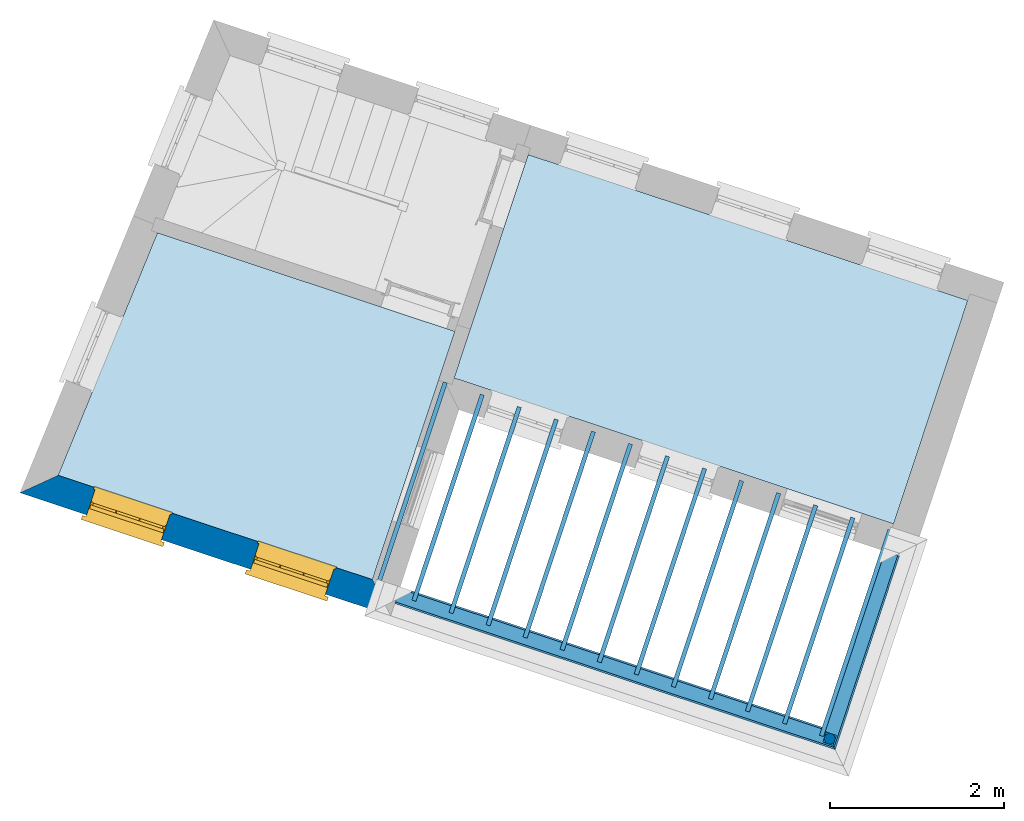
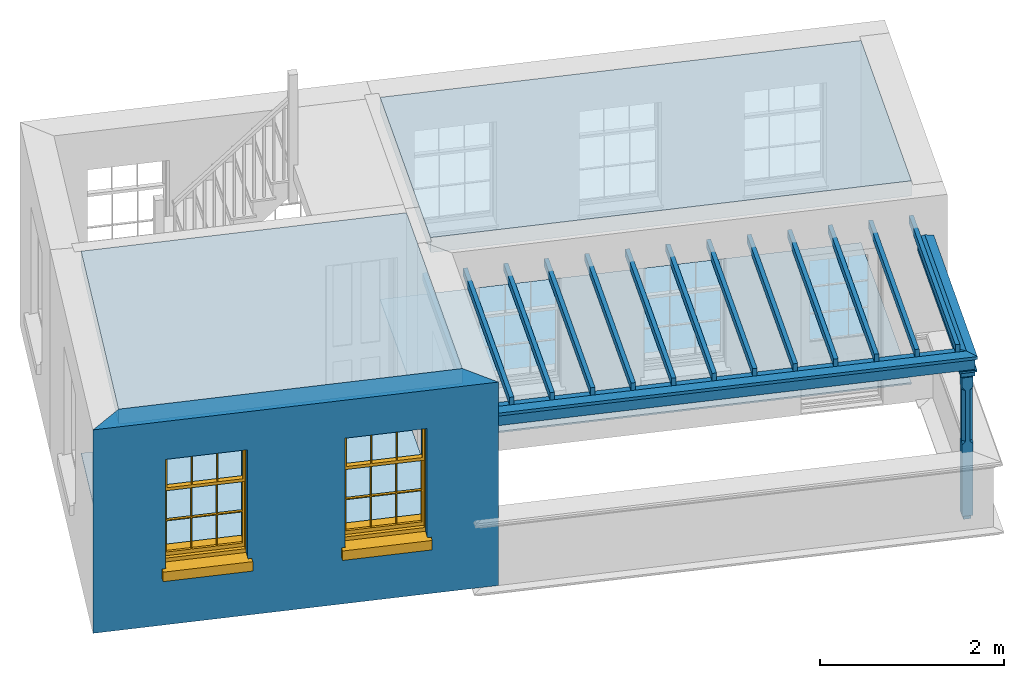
# One storey, part 1 of 6: 17 beams, 4 slabs, 2 windows, 1 column, 1 wall, 2 openings.
"""IFC4 building model written with IfcOpenShell, lengths in metres."""

from ifc_helpers import new_model, si_unit, frame, origin, origin_with_axes, place, context, subcontext, project, spatial, polyline, outline, extrude, clip, halfspace, faceted_brep, source, transform, mapped, material, layer, layer_set, layer_usage, material_profile, profile_set, profile_usage, type_object, type_shapes, element, fill, save


model = new_model("IFC4")

# Units and contexts
model_context = context("Model", 3, world=origin_with_axes())
body_context = subcontext(model_context, "Body", "Model", "MODEL_VIEW")
ifc_project = project(units=[si_unit("PLANEANGLEUNIT", "RADIAN"), si_unit("MASSUNIT", "GRAM", prefix="KILO"), si_unit("FORCEUNIT", "NEWTON", prefix="KILO"), si_unit("LENGTHUNIT", "METRE"), si_unit("AREAUNIT", "SQUARE_METRE"), si_unit("VOLUMEUNIT", "CUBIC_METRE")], contexts=[model_context, model_context])

# Sites, building, storey
site_1_placement = place(None, origin_with_axes())
site_1 = spatial("IfcSite", under=ifc_project, at=site_1_placement, Name="Tamar")
site_2_placement = place(site_1_placement, origin_with_axes())
site_2 = spatial("IfcSite", under=site_1, at=site_2_placement, Name="Site plot-16", CompositionType="ELEMENT")
building_placement = place(None, origin_with_axes())
building = spatial("IfcBuilding", under=site_2, at=building_placement, Name="Building plot-16", CompositionType="ELEMENT")
storey_placement = place(None, frame((0.0, 0.0, 29.45), z_axis=(0.0, 0.0, 1.0), x_axis=(1.0, 0.0, 0.0)))
storey = spatial("IfcBuildingStorey", under=building, at=storey_placement, Name="plot-16 1", CompositionType="ELEMENT", Elevation=29.45)

# Column
column_type = type_object("IfcColumnType", Name="pergola post", PredefinedType="NOTDEFINED")
shared_shape_1 = source(origin(), body_context, "Body", "Brep", [
    faceted_brep([(0.0246, -0.0615, 1.72), (0.0615, -0.0246, 1.72), (0.0615, -0.0615, 1.766667), (0.0615, -0.0246, 1.044444), (0.0246, -0.0615, 1.044444), (0.0615, 0.0246, 1.72), (0.0615, 0.0615, 1.766667), (-0.0246, -0.0615, 1.72), (-0.0615, -0.0615, 1.766667), (-0.0246, -0.0615, 1.044444), (0.0615, -0.0615, 0.997778), (0.0615, 0.0246, 1.044444), (0.0246, 0.0615, 1.72), (0.0615, 0.0615, 1.891111), (0.0615, -0.0615, 1.891111), (-0.0615, -0.0615, 1.891111), (-0.0615, -0.0246, 1.72), (-0.0615, -0.0246, 1.044444), (-0.0615, -0.0615, 0.997778), (0.0615, 0.0615, 0.997778), (0.0246, 0.0615, 1.044444), (-0.0246, 0.0615, 1.72), (-0.0615, 0.0615, 1.766667), (0.04305, 0.04305, 1.891111), (0.04305, -0.04305, 1.891111), (-0.0615, 0.0615, 1.891111), (-0.04305, -0.04305, 1.891111), (-0.0615, 0.0246, 1.72), (-0.0615, 0.0246, 1.044444), (0.0615, -0.0615, 0.053333), (-0.0615, -0.0615, 0.053333), (0.0615, 0.0615, 0.053333), (-0.0246, 0.0615, 1.044444), (-0.04305, 0.04305, 1.891111), (0.04305, 0.04305, 1.914444), (0.04305, -0.04305, 1.914444), (-0.04305, -0.04305, 1.914444), (-0.0615, 0.0615, 0.997778), (-0.0615, 0.0615, 0.053333), (-0.04305, -0.04305, 0.053333), (0.04305, -0.04305, 0.053333), (0.04305, 0.04305, 0.053333), (-0.04305, 0.04305, 1.914444), (0.07995, 0.07995, 1.914444), (0.07995, -0.07995, 1.914444), (-0.07995, -0.07995, 1.914444), (-0.04305, 0.04305, 0.053333), (-0.04305, -0.04305, 0.0), (0.04305, -0.04305, 0.0), (0.04305, 0.04305, 0.0), (-0.07995, 0.07995, 1.914444), (0.07995, 0.07995, 1.976667), (0.07995, -0.07995, 1.976667), (-0.07995, -0.07995, 1.976667), (-0.04305, 0.04305, 0.0), (-0.07995, 0.07995, 1.976667), (0.0984, 0.0984, 1.976667), (0.0984, -0.0984, 1.976667), (-0.0984, -0.0984, 1.976667), (-0.0984, 0.0984, 1.976667), (0.0984, 0.0984, 2.0), (0.0984, -0.0984, 2.0), (-0.0984, -0.0984, 2.0), (-0.0984, 0.0984, 2.0)], [[[0, 1, 2]], [[3, 1, 0, 4]], [[1, 5, 6, 2]], [[7, 0, 2, 8]], [[4, 0, 7, 9]], [[3, 4, 10]], [[1, 3, 11, 5]], [[5, 12, 6]], [[13, 14, 2, 6]], [[15, 8, 2, 14]], [[8, 16, 7]], [[9, 7, 16, 17]], [[9, 18, 10, 4]], [[3, 10, 19, 11]], [[20, 12, 5, 11]], [[21, 22, 6, 12]], [[14, 13, 23, 24]], [[13, 6, 22, 25]], [[25, 22, 8, 15]], [[26, 15, 14, 24]], [[16, 8, 22, 27]], [[27, 28, 17, 16]], [[17, 18, 9]], [[29, 10, 18, 30]], [[31, 19, 10, 29]], [[20, 11, 19]], [[12, 20, 32, 21]], [[21, 27, 22]], [[33, 23, 13, 25]], [[23, 34, 35, 24]], [[26, 33, 25, 15]], [[36, 26, 24, 35]], [[28, 27, 21, 32]], [[17, 28, 37, 18]], [[38, 30, 18, 37]], [[29, 30, 39, 40]], [[31, 38, 37, 19]], [[40, 41, 31, 29]], [[32, 20, 19, 37]], [[33, 42, 34, 23]], [[43, 44, 35, 34]], [[42, 33, 26, 36]], [[36, 35, 44, 45]], [[28, 32, 37]], [[46, 39, 30, 38]], [[39, 47, 48, 40]], [[46, 38, 31, 41]], [[49, 41, 40, 48]], [[43, 34, 42, 50]], [[43, 51, 52, 44]], [[45, 50, 42, 36]], [[53, 45, 44, 52]], [[46, 54, 47, 39]], [[54, 46, 41, 49]], [[50, 55, 51, 43]], [[56, 57, 52, 51]], [[55, 50, 45, 53]], [[53, 52, 57, 58]], [[56, 51, 55, 59]], [[56, 60, 61, 57]], [[58, 59, 55, 53]], [[62, 58, 57, 61]], [[59, 63, 60, 56]], [[63, 62, 61, 60]], [[58, 62, 63, 59]], [[47, 54, 49, 48]]]),
])
type_shapes(column_type, [shared_shape_1])
column_placement = place(storey_placement, frame((261.536710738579, 291.722224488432, 0.0), z_axis=(0.0, 0.0, 1.0), x_axis=(0.31503869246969, 0.949078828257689, 0.0)))
element("IfcColumn", 1, at=column_placement, inside=storey, type_object=column_type, Name="pergola post", context=body_context, shape_type="MappedRepresentation", body=[
    mapped(shared_shape_1, transform((0.0, 0.0, 0.0), scale=1.0)),
])

# Beams
ifc_material_profile_1 = material_profile(None, outline(polyline([(-0.08, -0.7), (0.08, -0.7), (0.08, -0.56), (-0.08, -0.56), (-0.08, -0.7)])))
ifc_profile_set_1 = profile_set([ifc_material_profile_1])
ifc_profile_usage_1 = profile_usage(ifc_profile_set_1)
beam_type_1 = type_object("IfcBeamType", Name="pergola beam_0", PredefinedType="NOTDEFINED", material=ifc_profile_set_1)
beam_1_placement = place(storey_placement, frame((262.485789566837, 291.407185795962, 2.7), z_axis=(-0.949078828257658, 0.315038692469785, 0.0), x_axis=(-0.315038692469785, -0.949078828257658, 0.0)))
element("IfcBeam", 2, at=beam_1_placement, inside=storey, type_object=beam_type_1, material=ifc_profile_usage_1, Name="pergola beam_0", context=body_context, shape_type="Clipping", body=[
    clip(clip(extrude(outline(polyline([(-0.08, -0.7), (0.08, -0.7), (0.08, -0.56), (-0.08, -0.56), (-0.08, -0.7)])), origin_with_axes(), (0.0, 0.0, 1.0), 7.24899441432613), halfspace(frame((0.0, 0.0, 6.24899441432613), z_axis=(-6.12323399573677e-17, 0.0, -1.0), x_axis=(0.0, 1.0, 0.0)), True)), halfspace(frame((0.0, 0.0, 1.0), z_axis=(-0.707106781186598, 0.0, -0.707106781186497), x_axis=(0.0, 1.0, 0.0)), False)),
])
ifc_profile_usage_2 = profile_usage(ifc_profile_set_1)
beam_2_placement = place(storey_placement, frame((262.561111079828, 294.808311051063, 2.7), z_axis=(-0.315038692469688, -0.94907882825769, 0.0), x_axis=(0.94907882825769, -0.315038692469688, 0.0)))
element("IfcBeam", 3, at=beam_2_placement, inside=storey, type_object=beam_type_1, material=ifc_profile_usage_2, Name="pergola beam_0", context=body_context, shape_type="Clipping", body=[
    clip(clip(extrude(outline(polyline([(-0.08, -0.7), (0.08, -0.7), (0.08, -0.56), (-0.08, -0.56), (-0.08, -0.7)])), origin_with_axes(), (0.0, 0.0, 1.0), 4.25166516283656), halfspace(frame((0.0, 0.0, 3.25166516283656), z_axis=(0.707106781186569, 0.0, -0.707106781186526), x_axis=(0.0, 1.0, 0.0)), True)), halfspace(frame((0.0, 0.0, 1.0), z_axis=(-2.33759158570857e-14, 0.0, -1.0), x_axis=(0.0, 1.0, 0.0)), False)),
])
ifc_material_profile_2 = material_profile(None, outline(polyline([(0.0, -0.5), (-0.1, -0.52), (-0.1, -0.56), (0.1, -0.56), (0.1, -0.52), (0.0, -0.5)])))
ifc_profile_set_2 = profile_set([ifc_material_profile_2])
ifc_profile_usage_3 = profile_usage(ifc_profile_set_2)
beam_type_2 = type_object("IfcBeamType", Name="pergola beam_1", PredefinedType="NOTDEFINED", material=ifc_profile_set_2)
beam_3_placement = place(storey_placement, frame((262.485789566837, 291.407185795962, 2.7), z_axis=(-0.949078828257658, 0.315038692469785, 0.0), x_axis=(-0.315038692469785, -0.949078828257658, 0.0)))
element("IfcBeam", 4, at=beam_3_placement, inside=storey, type_object=beam_type_2, material=ifc_profile_usage_3, Name="pergola beam_1", context=body_context, shape_type="Clipping", body=[
    clip(clip(extrude(outline(polyline([(0.0, -0.5), (-0.1, -0.52), (-0.1, -0.56), (0.1, -0.56), (0.1, -0.52), (0.0, -0.5)])), origin_with_axes(), (0.0, 0.0, 1.0), 7.24899441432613), halfspace(frame((0.0, 0.0, 6.24899441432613), z_axis=(-6.12323399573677e-17, 0.0, -1.0), x_axis=(0.0, 1.0, 0.0)), True)), halfspace(frame((0.0, 0.0, 1.0), z_axis=(-0.707106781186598, 0.0, -0.707106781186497), x_axis=(0.0, 1.0, 0.0)), False)),
])
ifc_profile_usage_4 = profile_usage(ifc_profile_set_2)
beam_4_placement = place(storey_placement, frame((262.561111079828, 294.808311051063, 2.7), z_axis=(-0.315038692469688, -0.94907882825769, 0.0), x_axis=(0.94907882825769, -0.315038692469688, 0.0)))
element("IfcBeam", 5, at=beam_4_placement, inside=storey, type_object=beam_type_2, material=ifc_profile_usage_4, Name="pergola beam_1", context=body_context, shape_type="Clipping", body=[
    clip(clip(extrude(outline(polyline([(0.0, -0.5), (-0.1, -0.52), (-0.1, -0.56), (0.1, -0.56), (0.1, -0.52), (0.0, -0.5)])), origin_with_axes(), (0.0, 0.0, 1.0), 4.25166516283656), halfspace(frame((0.0, 0.0, 3.25166516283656), z_axis=(0.707106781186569, 0.0, -0.707106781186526), x_axis=(0.0, 1.0, 0.0)), True)), halfspace(frame((0.0, 0.0, 1.0), z_axis=(-2.33759158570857e-14, 0.0, -1.0), x_axis=(0.0, 1.0, 0.0)), False)),
])
beam_5_placement = place(storey_placement, frame((256.294004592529, 293.462496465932, 2.2)))
element("IfcBeam", 6, at=beam_5_placement, inside=storey, Name="My Beam", ObjectType="Beam", context=body_context, shape_type="SweptSolid", body=[
    extrude(outline(polyline([(0.0, 0.0), (0.0474539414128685, -0.0157519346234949), (0.835575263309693, 2.35852550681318), (0.788121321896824, 2.37427744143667), (0.0, 0.0)])), origin_with_axes(), (0.0, 0.0, 1.0), 0.1),
])
beam_6_placement = place(storey_placement, frame((256.721090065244, 293.32072905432, 2.2)))
element("IfcBeam", 7, at=beam_6_placement, inside=storey, Name="My Beam", ObjectType="Beam", context=body_context, shape_type="SweptSolid", body=[
    extrude(outline(polyline([(0.0, 0.0), (0.0474539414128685, -0.0157519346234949), (0.83557526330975, 2.35852550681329), (0.788121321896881, 2.37427744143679), (0.0, 0.0)])), origin_with_axes(), (0.0, 0.0, 1.0), 0.1),
])
beam_7_placement = place(storey_placement, frame((257.14817553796, 293.178961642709, 2.2)))
element("IfcBeam", 8, at=beam_7_placement, inside=storey, Name="My Beam", ObjectType="Beam", context=body_context, shape_type="SweptSolid", body=[
    extrude(outline(polyline([(0.0, 0.0), (0.0474539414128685, -0.0157519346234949), (0.83557526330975, 2.35852550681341), (0.788121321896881, 2.3742774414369), (0.0, 0.0)])), origin_with_axes(), (0.0, 0.0, 1.0), 0.1),
])
beam_8_placement = place(storey_placement, frame((257.575261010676, 293.037194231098, 2.2)))
element("IfcBeam", 9, at=beam_8_placement, inside=storey, Name="My Beam", ObjectType="Beam", context=body_context, shape_type="SweptSolid", body=[
    extrude(outline(polyline([(0.0, 0.0), (0.0474539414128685, -0.0157519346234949), (0.835575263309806, 2.35852550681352), (0.788121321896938, 2.37427744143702), (0.0, 0.0)])), origin_with_axes(), (0.0, 0.0, 1.0), 0.1),
])
for number, where, name in (
    (10, (258.002346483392, 292.895426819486, 2.2), "My Beam"),
    (11, (258.429431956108, 292.753659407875, 2.2), "My Beam"),
):
    element("IfcBeam", number, at=place(storey_placement, frame(where)), inside=storey, Name=name, ObjectType="Beam", context=body_context, shape_type="SweptSolid", body=[
        extrude(outline(polyline([(0.0, 0.0), (0.0474539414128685, -0.0157519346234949), (0.835575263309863, 2.35852550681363), (0.788121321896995, 2.37427744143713), (0.0, 0.0)])), origin_with_axes(), (0.0, 0.0, 1.0), 0.1),
    ])
for number, where, name in (
    (12, (258.856517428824, 292.611891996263, 2.2), "My Beam"),
    (13, (259.28360290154, 292.470124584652, 2.2), "My Beam"),
    (14, (259.710688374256, 292.328357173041, 2.2), "My Beam"),
):
    element("IfcBeam", number, at=place(storey_placement, frame(where)), inside=storey, Name=name, ObjectType="Beam", context=body_context, shape_type="SweptSolid", body=[
        extrude(outline(polyline([(0.0, 0.0), (0.0474539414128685, -0.0157519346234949), (0.83557526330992, 2.35852550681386), (0.788121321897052, 2.37427744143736), (0.0, 0.0)])), origin_with_axes(), (0.0, 0.0, 1.0), 0.1),
    ])
beam_9_placement = place(storey_placement, frame((260.137773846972, 292.186589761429, 2.2)))
element("IfcBeam", 15, at=beam_9_placement, inside=storey, Name="My Beam", ObjectType="Beam", context=body_context, shape_type="SweptSolid", body=[
    extrude(outline(polyline([(0.0, 0.0), (0.0474539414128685, -0.0157519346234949), (0.835575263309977, 2.35852550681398), (0.788121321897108, 2.37427744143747), (0.0, 0.0)])), origin_with_axes(), (0.0, 0.0, 1.0), 0.1),
])
for number, where, name in (
    (16, (260.564859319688, 292.044822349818, 2.2), "My Beam"),
    (17, (260.991944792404, 291.903054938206, 2.2), "My Beam"),
):
    element("IfcBeam", number, at=place(storey_placement, frame(where)), inside=storey, Name=name, ObjectType="Beam", context=body_context, shape_type="SweptSolid", body=[
        extrude(outline(polyline([(0.0, 0.0), (0.0474539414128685, -0.0157519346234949), (0.835575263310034, 2.3585255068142), (0.788121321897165, 2.3742774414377), (0.0, 0.0)])), origin_with_axes(), (0.0, 0.0, 1.0), 0.1),
    ])
beam_10_placement = place(storey_placement, frame((261.41903026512, 291.761287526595, 2.2)))
element("IfcBeam", 18, at=beam_10_placement, inside=storey, Name="My Beam", ObjectType="Beam", context=body_context, shape_type="SweptSolid", body=[
    extrude(outline(polyline([(0.0, 0.0), (0.0474539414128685, -0.0157519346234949), (0.835575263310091, 2.35852550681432), (0.788121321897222, 2.37427744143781), (0.0, 0.0)])), origin_with_axes(), (0.0, 0.0, 1.0), 0.1),
])

# Slabs
slab_1_placement = place(storey_placement, frame((253.788780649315, 297.55457636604, 2.5)))
element("IfcSlab", 19, at=slab_1_placement, inside=storey, Name="My Slab", ObjectType="Slab", PredefinedType="FLOOR", context=body_context, shape_type="SweptSolid", body=[
    extrude(outline(polyline([(0.0, 0.0), (-1.14506928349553, -2.79610366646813), (2.47822770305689, -3.99882646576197), (3.42790047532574, -1.13786257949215), (0.0, 0.0)])), origin_with_axes(), (0.0, 0.0, 1.0), 0.2),
])
slab_2_placement = place(storey_placement, frame((253.788780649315, 297.55457636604, 0.0)))
element("IfcSlab", 20, at=slab_2_placement, inside=storey, Name="My Slab", ObjectType="Slab", PredefinedType="FLOOR", context=body_context, shape_type="SweptSolid", body=[
    extrude(outline(polyline([(0.0, 0.0), (-1.14506928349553, -2.79610366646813), (2.47822770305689, -3.99882646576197), (3.42790047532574, -1.13786257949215), (0.0, 0.0)])), origin_with_axes(), (0.0, 0.0, 1.0), 0.02),
])
slab_3_placement = place(storey_placement, frame((262.274108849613, 294.197631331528, 2.5)))
element("IfcSlab", 21, at=slab_3_placement, inside=storey, Name="My Slab", ObjectType="Slab", PredefinedType="FLOOR", context=body_context, shape_type="SweptSolid", body=[
    extrude(outline(polyline([(0.0, 0.0), (0.854836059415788, 2.57526083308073), (-4.21229050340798, 4.25725065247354), (-5.06712656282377, 1.68198981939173), (0.0, 0.0)])), origin_with_axes(), (0.0, 0.0, 1.0), 0.2),
])
slab_4_placement = place(storey_placement, frame((262.274108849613, 294.197631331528, 0.0)))
element("IfcSlab", 22, at=slab_4_placement, inside=storey, Name="My Slab", ObjectType="Slab", PredefinedType="FLOOR", context=body_context, shape_type="SweptSolid", body=[
    extrude(outline(polyline([(0.0, 0.0), (0.854836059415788, 2.57526083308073), (-4.21229050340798, 4.25725065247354), (-5.06712656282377, 1.68198981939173), (0.0, 0.0)])), origin_with_axes(), (0.0, 0.0, 1.0), 0.02),
])

# Wall, openings, windows
ifc_material = material(Name="Masonry")
ifc_layer = layer(ifc_material, 0.33, ventilated=False)
ifc_layer_set = layer_set([ifc_layer], Name="exterior_0.08_0.25")
ifc_layer_usage = layer_usage(ifc_layer_set, "AXIS2", "POSITIVE", -0.25)
wall_type = type_object("IfcWallType", Name="exterior_0.08_0.25", PredefinedType="SOLIDWALL", material=ifc_layer_set)
wall_placement = place(storey_placement, frame((252.537219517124, 294.709529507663, 0.0), z_axis=(0.0, 0.0, 1.0), x_axis=(0.949078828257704, -0.315038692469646, 0.0)))
wall = element("IfcWall", 23, at=wall_placement, inside=storey, type_object=wall_type, material=ifc_layer_usage, Name="exterior", context=body_context, shape_type="SweptSolid", body=[
    extrude(outline(polyline([(0.0856501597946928, 0.0799999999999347), (-0.267656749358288, -0.249999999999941), (4.23334883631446, -0.249999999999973), (3.90334883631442, 0.0800000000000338), (0.0856501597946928, 0.0799999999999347)])), origin_with_axes(), (0.0, 0.0, 1.0), 2.7),
])
opening_1_placement = place(wall_placement, frame((0.540837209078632, 0.0, 0.75)))
opening_1 = element("IfcOpeningElement", 24, at=opening_1_placement, cuts=wall, Name="My Opening", ObjectType="Opening", context=body_context, shape_type="SweptSolid", body=[
    extrude(outline(polyline([(0.0, -0.269999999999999), (0.909999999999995, -0.269999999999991), (0.909999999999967, 1.10000000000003), (-2.8421709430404e-14, 1.10000000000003), (0.0, -0.269999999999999)])), origin_with_axes(), (0.0, 0.0, 1.0), 1.445),
])
opening_2_placement = place(wall_placement, frame((2.53251162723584, 0.0, 0.75)))
opening_2 = element("IfcOpeningElement", 25, at=opening_2_placement, cuts=wall, Name="My Opening", ObjectType="Opening", context=body_context, shape_type="SweptSolid", body=[
    extrude(outline(polyline([(0.0, -0.270000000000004), (0.909999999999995, -0.269999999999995), (0.909999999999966, 1.10000000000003), (-2.8421709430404e-14, 1.10000000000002), (0.0, -0.270000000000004)])), origin_with_axes(), (0.0, 0.0, 1.0), 1.445),
])
window_type = type_object("IfcWindowType", Name="sash_shorter", PartitioningType="DOUBLE_PANEL_HORIZONTAL", PredefinedType="NOTDEFINED")
shared_shape_2 = source(origin(), body_context, "Body", "Brep", [
    faceted_brep([(0.876875, 0.145, 0.999097), (0.876875, 0.145, 1.411875), (0.9, 0.145, 1.435), (0.033125, 0.145, 1.411875), (0.033125, 0.145, 0.999097), (0.01, 0.145, 1.435), (0.033125, 0.115, 1.411875), (0.01, 0.115, 1.435), (0.033125, 0.115, 0.999097), (0.876875, 0.115, 1.411875), (0.876875, 0.115, 0.999097), (0.9, 0.115, 1.435), (0.033125, 0.145, 0.960972), (0.01, 0.145, 0.960972), (0.033125, 0.145, 0.548195), (0.876875, 0.145, 0.960972), (0.876875, 0.145, 0.548195), (0.9, 0.145, 0.960972), (0.876875, 0.145, 0.538195), (0.876875, 0.145, 0.125417), (0.9, 0.145, 0.077167), (0.033125, 0.145, 0.125417), (0.033125, 0.145, 0.538195), (0.01, 0.145, 0.077167), (0.9, 0.115, 0.960972), (0.01, 0.115, 0.960972), (-0.0425, 0.0, 0.01), (-0.0425, -0.05, 0.001667), (0.0, 0.0, 0.01), (0.9525, 0.0, 0.01), (0.91, 0.0, 0.01), (0.9525, -0.05, 0.001667), (-0.02, 0.33, 0.077167), (0.0, 0.33, 0.077167), (-0.02, 0.36, 0.077167), (0.0, 0.19, 0.077167), (0.01, 0.19, 0.077167), (0.91, 0.19, 0.077167), (0.91, 0.33, 0.077167), (0.9, 0.19, 0.077167), (0.93, 0.33, 0.077167), (0.93, 0.36, 0.077167), (0.01, 0.145, 0.999097), (0.01, 0.175, 0.999097), (0.9, 0.145, 0.999097), (0.9, 0.175, 0.999097), (0.876875, 0.175, 0.125417), (0.876875, 0.175, 0.538195), (0.9, 0.175, 0.077167), (0.876875, 0.175, 0.548195), (0.876875, 0.175, 0.960972), (0.033125, 0.175, 0.125417), (0.01, 0.175, 0.077167), (0.033125, 0.175, 0.538195), (0.033125, 0.175, 0.960972), (0.033125, 0.175, 0.548195), (-0.02, 0.33, 0.052167), (-0.02, 0.36, 0.052167), (0.93, 0.36, 0.052167), (0.93, 0.33, 0.052167), (0.91, 0.33, 0.052167), (0.0, 0.33, 0.052167), (0.91, 0.1, 0.026667), (0.0, 0.1, 0.026667), (-0.0425, -0.05, -0.123333), (0.9525, -0.05, -0.123333), (-0.0425, 0.0, -0.123333), (0.9525, 0.0, -0.123333), (0.01, 0.19, 1.435), (0.9, 0.19, 1.435), (0.0, 0.19, 1.445), (0.91, 0.19, 1.445), (0.01, 0.1, 0.077167), (0.9, 0.1, 0.077167), (0.592292, 0.145, 0.125417), (0.592292, 0.175, 0.125417), (0.317708, 0.175, 0.125417), (0.317708, 0.145, 0.125417), (0.592292, 0.145, 0.548195), (0.317708, 0.145, 0.548195), (0.317708, 0.145, 0.538195), (0.592292, 0.145, 0.538195), (0.592292, 0.175, 0.548195), (0.317708, 0.175, 0.548195), (0.602292, 0.175, 0.548195), (0.602292, 0.145, 0.548195), (0.317708, 0.175, 0.538195), (0.307708, 0.175, 0.125417), (0.307708, 0.175, 0.538195), (0.602292, 0.175, 0.538195), (0.602292, 0.175, 0.125417), (0.592292, 0.175, 0.538195), (0.307708, 0.175, 0.548195), (0.317708, 0.175, 0.960972), (0.307708, 0.175, 0.960972), (0.602292, 0.175, 0.960972), (0.592292, 0.175, 0.960972), (0.307708, 0.145, 0.538195), (0.307708, 0.145, 0.125417), (0.307708, 0.145, 0.548195), (0.307708, 0.145, 0.960972), (0.592292, 0.145, 0.960972), (0.317708, 0.145, 0.960972), (0.602292, 0.145, 0.960972), (0.602292, 0.145, 0.538195), (0.602292, 0.145, 0.125417), (0.317708, 0.115, 1.411875), (0.307708, 0.115, 1.411875), (0.307708, 0.115, 0.999097), (0.317708, 0.115, 0.999097), (0.602292, 0.115, 1.411875), (0.592292, 0.115, 1.411875), (0.592292, 0.115, 0.999097), (0.602292, 0.115, 0.999097), (0.317708, 0.145, 0.999097), (0.307708, 0.145, 0.999097), (0.307708, 0.145, 1.411875), (0.317708, 0.145, 1.411875), (0.602292, 0.145, 0.999097), (0.592292, 0.145, 0.999097), (0.592292, 0.145, 1.411875), (0.602292, 0.145, 1.411875), (0.91, 0.1, 1.445), (0.9, 0.1, 1.435), (0.01, 0.1, 1.435), (0.0, 0.1, 1.445), (0.91, 0.0, 0.0), (0.0, 0.0, 0.0), (0.91, 0.33, 0.0), (0.0, 0.33, 0.0)], [[[0, 1, 2]], [[3, 4, 5]], [[6, 7, 8]], [[9, 10, 11]], [[12, 13, 14]], [[15, 16, 17]], [[18, 19, 20]], [[21, 22, 23]], [[24, 15, 17]], [[13, 12, 25]], [[26, 27, 28]], [[29, 30, 31]], [[32, 33, 34]], [[35, 36, 33]], [[37, 38, 39]], [[40, 41, 38]], [[42, 4, 43]], [[44, 45, 0]], [[46, 47, 48]], [[49, 50, 45]], [[51, 52, 53]], [[54, 55, 43]], [[38, 33, 36, 39]], [[41, 34, 33, 38]], [[56, 32, 34, 57]], [[57, 34, 41, 58]], [[58, 41, 40, 59]], [[57, 58, 60, 61]], [[52, 48, 39, 36]], [[62, 63, 28, 30]], [[27, 31, 30, 28]], [[27, 64, 65, 31]], [[66, 67, 65, 64]], [[2, 5, 68, 69]], [[68, 70, 71, 69]], [[20, 23, 72, 73]], [[73, 72, 63, 62]], [[74, 75, 76, 77]], [[78, 79, 80, 81]], [[78, 82, 83, 79]], [[16, 49, 84, 85]], [[86, 76, 87, 88]], [[89, 90, 75, 91]], [[92, 88, 53, 55]], [[82, 91, 86, 83]], [[93, 83, 92, 94]], [[95, 84, 82, 96]], [[89, 84, 49, 47]], [[97, 88, 87, 98]], [[22, 53, 88, 97]], [[81, 91, 75, 74]], [[80, 86, 91, 81]], [[77, 76, 86, 80]], [[99, 92, 55, 14]], [[100, 94, 92, 99]], [[101, 96, 82, 78]], [[79, 83, 93, 102]], [[85, 84, 95, 103]], [[104, 89, 47, 18]], [[105, 90, 89, 104]], [[104, 18, 16, 85]], [[80, 97, 98, 77]], [[104, 81, 74, 105]], [[103, 101, 78, 85]], [[99, 14, 22, 97]], [[102, 100, 99, 79]], [[106, 107, 108, 109]], [[110, 111, 112, 113]], [[114, 115, 116, 117]], [[118, 119, 120, 121]], [[107, 116, 115, 108]], [[111, 120, 119, 112]], [[109, 114, 117, 106]], [[113, 118, 121, 110]], [[85, 78, 81, 104]], [[84, 89, 91, 82]], [[83, 86, 88, 92]], [[79, 99, 97, 80]], [[109, 112, 119, 114]], [[102, 93, 96, 101]], [[106, 117, 120, 111]], [[98, 87, 51, 21]], [[6, 3, 116, 107]], [[110, 121, 1, 9]], [[19, 46, 90, 105]], [[26, 66, 64, 27]], [[29, 31, 65, 67]], [[25, 24, 112, 109]], [[11, 7, 106, 111]], [[75, 48, 52, 76]], [[43, 45, 96, 93]], [[45, 43, 114, 119]], [[5, 2, 120, 117]], [[24, 25, 102, 101]], [[42, 5, 4]], [[2, 44, 0]], [[49, 45, 48, 47]], [[52, 43, 55, 53]], [[14, 13, 23, 22]], [[20, 17, 16, 18]], [[24, 11, 10]], [[25, 8, 7]], [[8, 4, 3, 6]], [[9, 1, 0, 10]], [[15, 50, 49, 16]], [[18, 47, 46, 19]], [[21, 51, 53, 22]], [[14, 55, 54, 12]], [[44, 2, 69, 45]], [[68, 5, 42, 43]], [[36, 35, 70, 68]], [[39, 69, 71, 37]], [[62, 122, 123, 73]], [[63, 72, 124, 125]], [[8, 108, 115, 4]], [[113, 10, 0, 118]], [[94, 100, 12, 54]], [[17, 20, 73, 24]], [[72, 23, 13, 25]], [[52, 36, 68, 43]], [[69, 39, 48, 45]], [[11, 24, 73, 123]], [[7, 124, 72, 25]], [[23, 77, 98]], [[98, 21, 23]], [[105, 74, 20]], [[20, 19, 105]], [[20, 74, 77, 23]], [[113, 112, 24]], [[24, 10, 113]], [[25, 109, 108]], [[108, 8, 25]], [[110, 9, 11]], [[11, 111, 110]], [[7, 6, 107]], [[107, 106, 7]], [[5, 117, 116]], [[116, 3, 5]], [[121, 120, 2]], [[2, 1, 121]], [[11, 123, 124, 7]], [[122, 125, 124, 123]], [[43, 93, 94]], [[94, 54, 43]], [[96, 45, 95]], [[50, 95, 45]], [[15, 103, 95, 50]], [[48, 75, 90]], [[90, 46, 48]], [[87, 76, 52]], [[52, 51, 87]], [[103, 15, 24]], [[24, 101, 103]], [[100, 102, 25]], [[25, 12, 100]], [[115, 114, 43]], [[43, 4, 115]], [[118, 0, 45]], [[45, 119, 118]], [[71, 70, 125, 122]], [[70, 35, 63, 125]], [[122, 62, 37, 71]], [[126, 67, 66, 127]], [[60, 58, 59]], [[38, 60, 59, 40]], [[61, 56, 57]], [[32, 56, 61, 33]], [[61, 60, 128, 129]], [[62, 60, 38, 37]], [[126, 128, 60, 62]], [[33, 61, 63, 35]], [[61, 129, 127, 63]], [[128, 126, 127, 129]], [[28, 127, 66, 26]], [[63, 127, 28]], [[29, 67, 126, 30]], [[30, 126, 62]]]),
])
type_shapes(window_type, [shared_shape_2])
window_1_placement = place(storey_placement, frame((252.965456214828, 294.282893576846, 0.75), z_axis=(0.0, 0.0, 1.0), x_axis=(0.863661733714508, -0.286685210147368, 0.0)))
window_1 = element("IfcWindow", 26, at=window_1_placement, inside=storey, type_object=window_type, Name="bedroom outside window", OverallHeight=1.445, OverallWidth=0.91, context=body_context, shape_type="MappedRepresentation", body=[
    mapped(shared_shape_2, transform((0.0, 0.0, 0.0), scale=1.0)),
])
fill(opening_1, window_1)
window_2_placement = place(storey_placement, frame((254.855712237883, 293.655439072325, 0.75), z_axis=(0.0, 0.0, 1.0), x_axis=(0.863661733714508, -0.286685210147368, 0.0)))
window_2 = element("IfcWindow", 27, at=window_2_placement, inside=storey, type_object=window_type, Name="bedroom outside window", OverallHeight=1.445, OverallWidth=0.91, context=body_context, shape_type="MappedRepresentation", body=[
    mapped(shared_shape_2, transform((0.0, 0.0, 0.0), scale=1.0)),
])
fill(opening_2, window_2)

save(model, "model.ifc")
